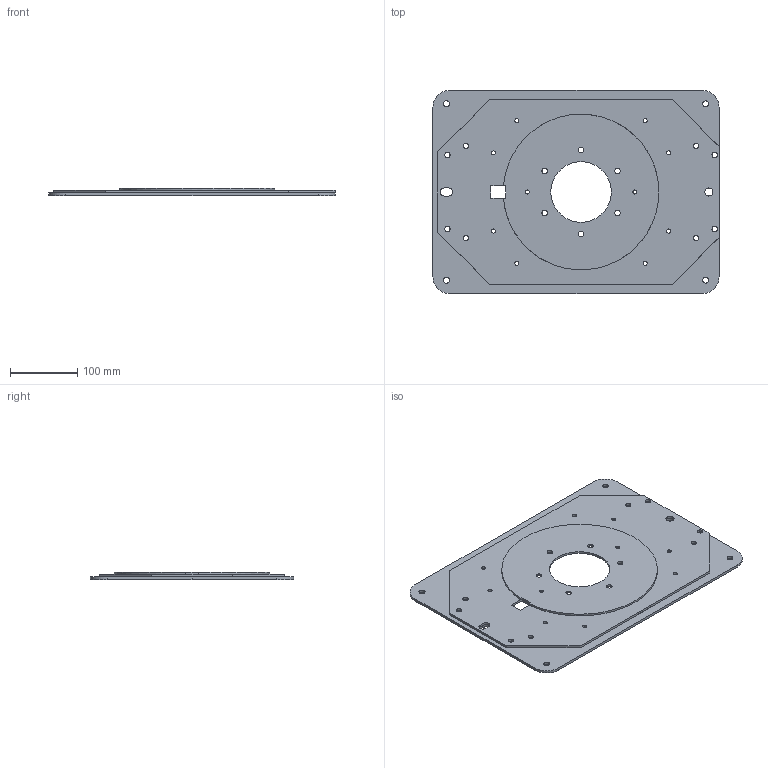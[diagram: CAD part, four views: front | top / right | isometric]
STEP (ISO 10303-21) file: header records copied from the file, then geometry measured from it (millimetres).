
FILE_DESCRIPTION(('CATIA V5 STEP Exchange'),'2;1');
FILE_NAME('D:\交接\张长江\21-Benz H6\光华荣昌转盘数据\H6 转盘\转盘用整椅数据 A9609109920\sample\H6 转盘夏季测试样件方案_20240617\样件数据\钣金件\SHT0017294-1 转盘下板.stp','2024-06-19T06:56:19+00:00',('none'),('none'),'CATIA Version 5 Release 20 GA (IN-10)','CATIA V5 STEP AP203 Edition 2','none');
FILE_SCHEMA(('AP203_CONFIGURATION_CONTROLLED_3D_DESIGN_OF_MECHANICAL_PARTS_AND_ASSEMBLIES_MIM_LF { 1 0 10303 403 2 1 2}'));
Length unit declared in the file: millimetre
Products named in the file (1): SHT0017294-1
Bounding box: 425 x 302 x 10.5 mm (x, y, z)
Volume: 664150.1 mm3; surface area: 394361 mm2
Topology: 3 solids, 3 shells, 221 faces, 699 edges, 485 vertices
Faces by surface type: cylinder 176, plane 40, extrusion 4, bspline 1
Entity records: 8140 total; most frequent: CARTESIAN_POINT 2044, ORIENTED_EDGE 1398, DIRECTION 940, EDGE_CURVE 699, AXIS2_PLACEMENT_3D 503, VERTEX_POINT 485, CIRCLE 346, EDGE_LOOP 326
